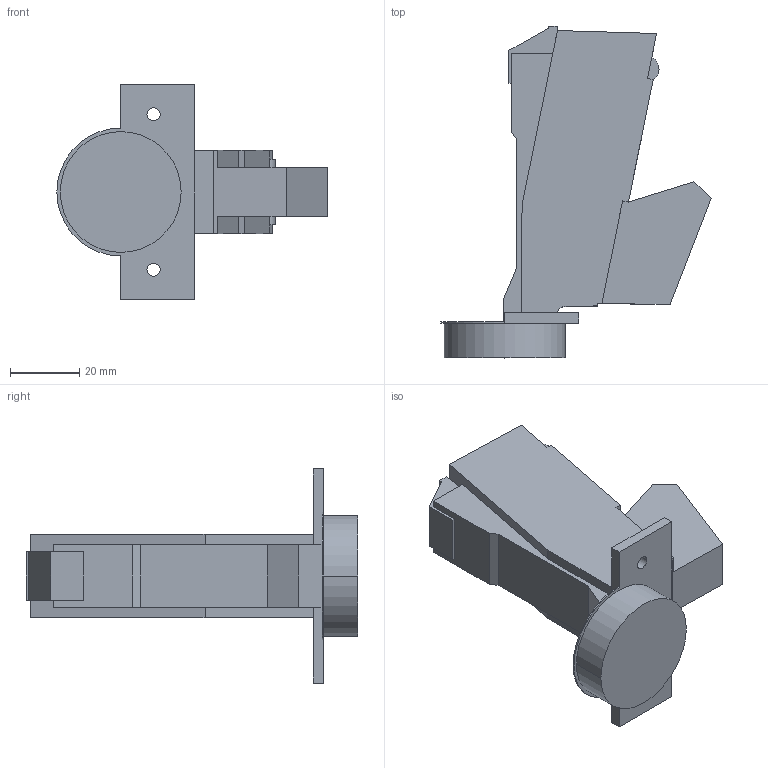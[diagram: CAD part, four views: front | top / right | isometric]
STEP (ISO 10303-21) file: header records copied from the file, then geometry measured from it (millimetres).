
FILE_DESCRIPTION (( 'STEP AP214' ), '1' );
FILE_NAME ('Scharnier TT Click-on 160° B_BB, K00 - Neu -.step', '2019-09-17T09:17:30', ( '' ), ( '' ), 'SwSTEP 2.0', 'SolidWorks 2019', '' );
FILE_SCHEMA (( 'AUTOMOTIVE_DESIGN' ));
Length unit declared in the file: millimetre
Products named in the file (1): Scharnier TT Click-on 160° B_BB, K00 - Neu -
Bounding box: 78.27 x 96.09 x 62 mm (x, y, z)
Volume: 87736.9 mm3; surface area: 17991.2 mm2
Topology: 1 solids, 1 shells, 59 faces, 164 edges, 108 vertices
Faces by surface type: plane 50, cylinder 9
Entity records: 1906 total; most frequent: CARTESIAN_POINT 332, ORIENTED_EDGE 328, DIRECTION 302, EDGE_CURVE 164, LINE 146, VECTOR 146, VERTEX_POINT 108, AXIS2_PLACEMENT_3D 78
